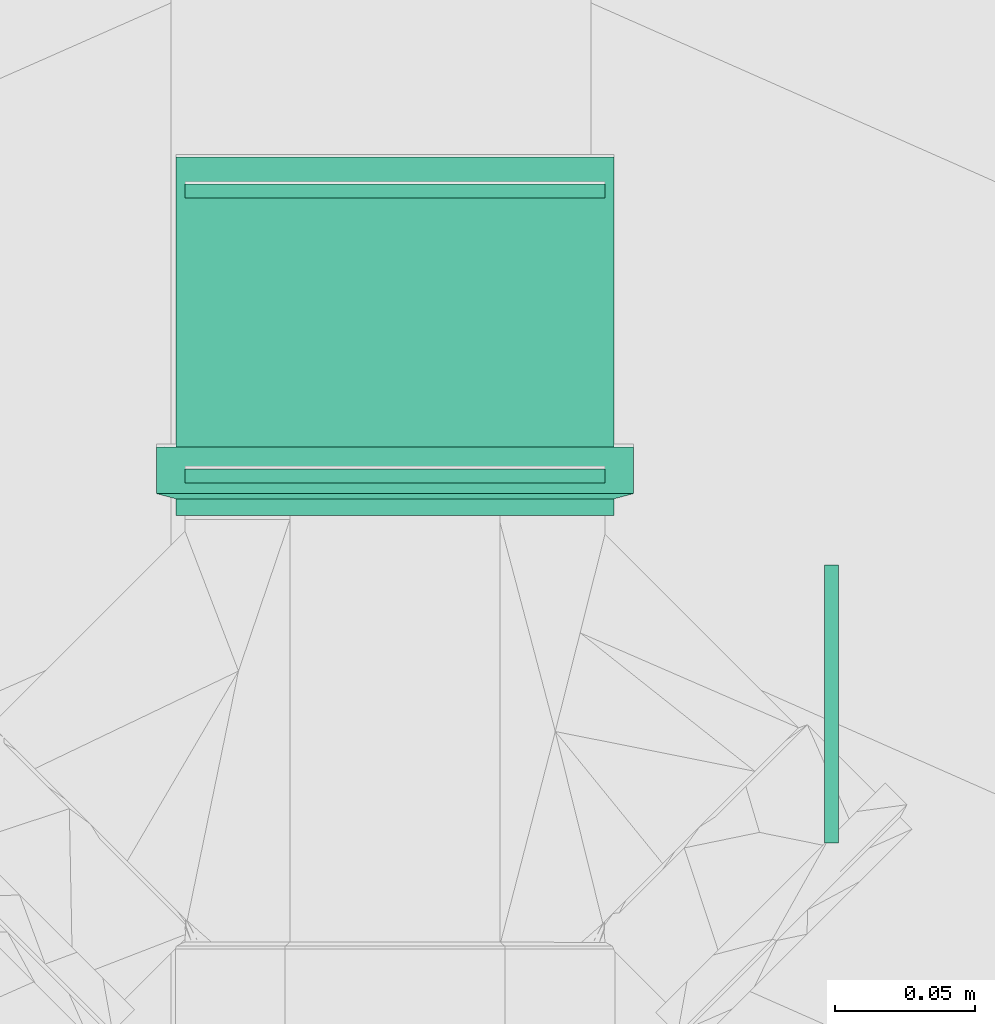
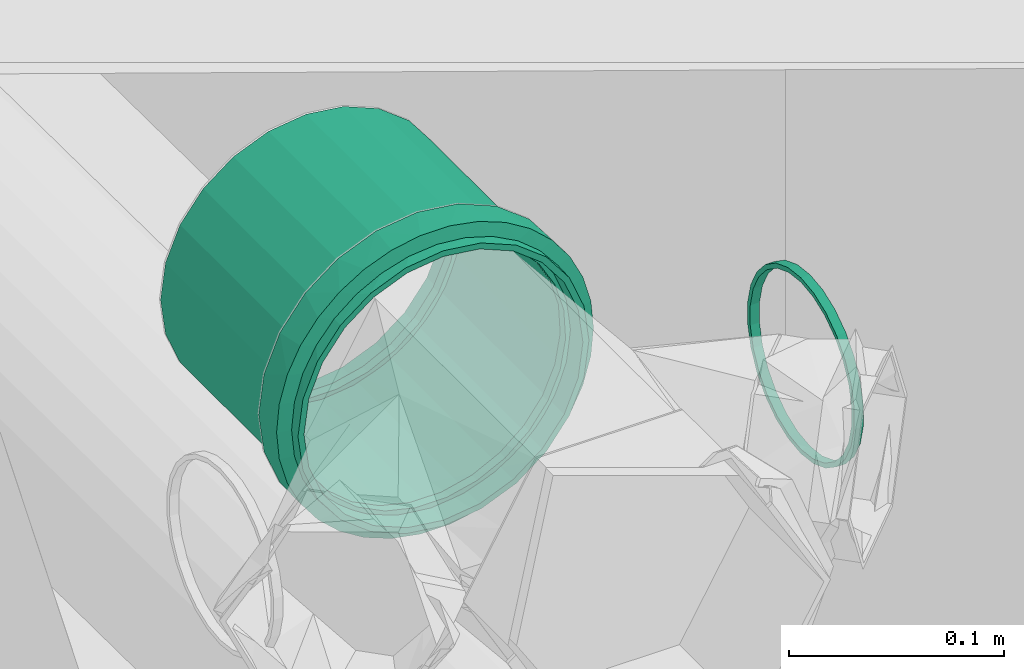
# One storey, part 102 of 166: 4 flow fittings.
"""IFC2X3 building model written with IfcOpenShell, lengths in metres."""

from ifc_helpers import new_model, entity, si_unit, converted_unit, direction, frame, frame_2d, origin, place, context, subcontext, project, spatial, hollow_circle, extrude, faceted_brep, source, transform, mapped, material, type_object, type_shapes, element, save


model = new_model("IFC2X3")

# Units and contexts
model_context = context("Model", 3, precision=1e-05, world=origin(), true_north=direction((6.123233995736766e-17, 1.0)))
body_context = subcontext(model_context, "Body", "Model", "MODEL_VIEW")
ifc_project = project(units=[si_unit("LENGTHUNIT", "METRE"), converted_unit("PLANEANGLEUNIT", "DEGREE", entity("IfcPlaneAngleMeasure", 0.017453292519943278), si_unit("PLANEANGLEUNIT", "RADIAN"), dimensions=[0, 0, 0, 0, 0, 0, 0]), si_unit("AREAUNIT", "SQUARE_METRE")], contexts=[model_context])

# Site, building, storey
site_placement = place(None, origin())
site = spatial("IfcSite", under=ifc_project, at=site_placement, Name="Default", CompositionType="ELEMENT")
building_placement = place(site_placement, origin())
building = spatial("IfcBuilding", under=site, at=building_placement, Name="CASA DE ACOLHIDA PARA IDOSOS", CompositionType="ELEMENT")
storey_placement = place(building_placement, frame((0.0, 0.0, -1.7499999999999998)))
storey = spatial("IfcBuildingStorey", under=building, at=storey_placement, Name="IMPLANTAÇÃO DRENAGEM", CompositionType="ELEMENT", Elevation=-1.7499999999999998)

# Flow fittings
ifc_material_1 = material(Name="PVC Bege Pérola")
pipe_fitting_type_1 = type_object("IfcPipeFittingType", Name="PLUV_Serie Reforcada_Luva Simples:Standard", PredefinedType="NOTDEFINED", material=ifc_material_1)
shared_shape_1 = source(origin(), body_context, "Body", "Brep", [
    faceted_brep([(0.02451000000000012, 0.04262500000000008, -0.07382866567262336), (0.02451000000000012, 0.06028085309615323, -0.06028085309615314), (0.02451000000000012, 0.039124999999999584, -0.06776648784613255), (0.02451000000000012, 0.020252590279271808, -0.0755836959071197), (0.02451000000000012, 0.022064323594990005, -0.08234517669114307), (0.02451000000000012, 0.05533110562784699, -0.055331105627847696), (0.02451000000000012, 0.07382866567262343, -0.04262499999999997), (0.02451000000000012, 0.06776648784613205, -0.03912500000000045), (0.02451000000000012, 0.07558369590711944, -0.02025259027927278), (0.02451000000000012, 0.08234517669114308, -0.022064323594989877), (0.02451000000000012, 0.07825, 0.0), (0.02451000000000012, 0.08525, 0.0), (0.02451000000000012, 0.07558369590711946, 0.020252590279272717), (0.02451000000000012, 0.0823451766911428, 0.022064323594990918), (0.02451000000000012, 0.06776648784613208, 0.039125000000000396), (0.02451000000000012, 0.07382866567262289, 0.04262500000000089), (0.02451000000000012, 0.05533110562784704, 0.055331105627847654), (0.02451000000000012, 0.06028085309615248, 0.0602808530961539), (0.02451000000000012, 0.03912499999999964, 0.06776648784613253), (0.02451000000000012, 0.04262499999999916, 0.07382866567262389), (0.02451000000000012, 0.020252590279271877, 0.07558369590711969), (0.02451000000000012, 0.02206432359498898, 0.08234517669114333), (0.02451000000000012, 0.0, 0.07825), (0.02451000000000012, 0.0, 0.08525), (0.02451000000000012, -0.020252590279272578, 0.0755836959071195), (0.02451000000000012, -0.022064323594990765, 0.08234517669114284), (0.02451000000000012, -0.03912500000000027, 0.06776648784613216), (0.02451000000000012, -0.042625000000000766, 0.07382866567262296), (0.02451000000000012, -0.05533110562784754, 0.055331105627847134), (0.02451000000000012, -0.0602808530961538, 0.06028085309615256), (0.02451000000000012, -0.06776648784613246, 0.03912499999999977), (0.02451000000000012, -0.07382866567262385, 0.042624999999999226), (0.02451000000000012, -0.08234517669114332, 0.02206432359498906), (0.02451000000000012, -0.07558369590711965, 0.020252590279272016), (0.02451000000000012, -0.08525, 0.0), (0.02451000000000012, -0.07825, 0.0), (0.02451000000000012, -0.08234517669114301, -0.022064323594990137), (0.02451000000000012, -0.07558369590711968, -0.020252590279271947), (0.02451000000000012, -0.07382866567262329, -0.04262500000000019), (0.02451000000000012, -0.0677664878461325, -0.03912499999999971), (0.02451000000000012, -0.060280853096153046, -0.060280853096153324), (0.02451000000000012, -0.05533110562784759, -0.055331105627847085), (0.02451000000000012, -0.042624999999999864, -0.0738286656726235), (0.02451000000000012, -0.039125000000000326, -0.06776648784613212), (0.02451000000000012, -0.02206432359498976, -0.08234517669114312), (0.02451000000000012, -0.02025259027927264, -0.07558369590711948), (0.02451000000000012, 0.0, -0.08525), (0.02451000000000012, 0.0, -0.07825), (0.007830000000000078, -0.08379835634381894, 0.01566518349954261), (0.007830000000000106, -0.07949286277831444, 0.03079687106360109), (0.007830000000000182, -0.05137242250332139, 0.06803261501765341), (0.007830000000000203, -0.03799626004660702, 0.07631413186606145), (0.007830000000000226, -0.00786152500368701, 0.08488674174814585), (0.00783000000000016, -0.06299903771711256, 0.057434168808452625), (0.007830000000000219, -0.023326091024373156, 0.08199668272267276), (0.007830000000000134, -0.07248014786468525, 0.044879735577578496), (0.00783000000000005, -0.08525, 0.0), (0.00783000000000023, 0.007870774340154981, 0.08488588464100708), (0.007830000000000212, 0.03800457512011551, 0.07630999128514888), (0.007830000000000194, 0.05137983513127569, 0.06802701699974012), (0.007830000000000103, 0.07949621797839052, 0.030788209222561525), (0.007830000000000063, 0.08380006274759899, 0.015656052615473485), (0.007830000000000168, 0.06300529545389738, 0.05742730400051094), (0.00783000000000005, 0.08525, 0.0), (0.007830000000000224, 0.023335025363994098, 0.08199414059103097), (0.007830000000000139, 0.07248503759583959, 0.04487183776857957), (0.007830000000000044, 0.08380006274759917, -0.015656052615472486), (0.007830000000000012, 0.07949621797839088, -0.03078820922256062), (0.00782999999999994, 0.05137983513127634, -0.06802701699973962), (0.007829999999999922, 0.038004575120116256, -0.07630999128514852), (0.007829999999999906, 0.007870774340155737, -0.084885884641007), (0.00782999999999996, 0.063005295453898, -0.05742730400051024), (0.007829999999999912, 0.023335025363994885, -0.08199414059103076), (0.007829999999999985, 0.07248503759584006, -0.04487183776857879), (0.007829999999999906, -0.007861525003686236, -0.0848867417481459), (0.007829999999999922, -0.037996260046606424, -0.07631413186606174), (0.007829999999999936, -0.05137242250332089, -0.06803261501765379), (0.00783, -0.07949286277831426, -0.030796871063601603), (0.007830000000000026, -0.08379835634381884, -0.015665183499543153), (0.007829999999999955, -0.06299903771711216, -0.057434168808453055), (0.007829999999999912, -0.023326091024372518, -0.08199668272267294), (0.007829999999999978, -0.07248014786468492, -0.044879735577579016), (0.1280100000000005, 0.03912500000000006, -0.06776648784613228), (0.1280100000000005, 0.055331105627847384, -0.05533110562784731), (0.1280100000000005, 0.0374999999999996, -0.06495190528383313), (0.1280100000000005, 0.01941142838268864, -0.07244443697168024), (0.1280100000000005, 0.020252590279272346, -0.07558369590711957), (0.1280100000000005, 0.05303300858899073, -0.053033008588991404), (0.1280100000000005, 0.06776648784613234, -0.039124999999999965), (0.1280100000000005, 0.06495190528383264, -0.03750000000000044), (0.1280100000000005, 0.07244443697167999, -0.01941142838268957), (0.1280100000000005, 0.07558369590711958, -0.020252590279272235), (0.1280100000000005, 0.07500000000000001, 0.0), (0.1280100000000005, 0.07825, 0.0), (0.1280100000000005, 0.07244443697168, 0.019411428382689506), (0.1280100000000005, 0.07558369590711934, 0.020252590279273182), (0.1280100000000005, 0.06495190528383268, 0.03750000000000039), (0.1280100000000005, 0.06776648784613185, 0.03912500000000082), (0.1280100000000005, 0.05303300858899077, 0.05303300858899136), (0.1280100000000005, 0.0553311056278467, 0.055331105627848), (0.1280100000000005, 0.03749999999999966, 0.0649519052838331), (0.1280100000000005, 0.039124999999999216, 0.06776648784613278), (0.1280100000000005, 0.0194114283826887, 0.07244443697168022), (0.1280100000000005, 0.020252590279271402, 0.07558369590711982), (0.1280100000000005, 0.0, 0.07500000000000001), (0.1280100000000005, 0.0, 0.07825), (0.1280100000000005, -0.019411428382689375, 0.07244443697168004), (0.1280100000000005, -0.020252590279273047, 0.07558369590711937), (0.1280100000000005, -0.03750000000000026, 0.06495190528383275), (0.1280100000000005, -0.039125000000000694, 0.06776648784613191), (0.1280100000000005, -0.05303300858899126, 0.05303300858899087), (0.1280100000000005, -0.055331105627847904, 0.05533110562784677), (0.1280100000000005, -0.06495190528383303, 0.037499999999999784), (0.1280100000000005, -0.06776648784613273, 0.039124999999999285), (0.1280100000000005, -0.0755836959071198, 0.02025259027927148), (0.1280100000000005, -0.07244443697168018, 0.019411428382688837), (0.1280100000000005, -0.07825, 0.0), (0.1280100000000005, -0.07500000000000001, 0.0), (0.1280100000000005, -0.07558369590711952, -0.020252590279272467), (0.1280100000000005, -0.0724444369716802, -0.01941142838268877), (0.1280100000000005, -0.06776648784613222, -0.039125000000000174), (0.1280100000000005, -0.06495190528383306, -0.03749999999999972), (0.1280100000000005, -0.05533110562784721, -0.05533110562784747), (0.1280100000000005, -0.053033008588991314, -0.05303300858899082), (0.1280100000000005, -0.03912499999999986, -0.0677664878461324), (0.1280100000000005, -0.03750000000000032, -0.06495190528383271), (0.1280100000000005, -0.02025259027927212, -0.07558369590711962), (0.1280100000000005, -0.019411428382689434, -0.07244443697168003), (0.1280100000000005, 0.0, -0.07825), (0.1280100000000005, 0.0, -0.07500000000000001), (0.0, 0.0374999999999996, -0.06495190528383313), (0.0, 0.055331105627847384, -0.05533110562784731), (0.0, 0.03912500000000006, -0.06776648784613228), (0.0, 0.01941142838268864, -0.07244443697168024), (0.0, 0.05303300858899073, -0.053033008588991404), (0.0, 0.06776648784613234, -0.039124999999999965), (0.0, 0.06495190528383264, -0.03750000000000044), (0.0, 0.07244443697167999, -0.01941142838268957), (0.0, 0.07558369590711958, -0.020252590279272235), (0.0, 0.07500000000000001, 0.0), (0.0, 0.07825, 0.0), (0.0, 0.07244443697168, 0.019411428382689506), (0.0, 0.07558369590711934, 0.020252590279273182), (0.0, 0.06495190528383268, 0.03750000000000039), (0.0, 0.06776648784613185, 0.03912500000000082), (0.0, 0.05303300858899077, 0.05303300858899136), (0.0, 0.0553311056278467, 0.055331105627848), (0.0, 0.03749999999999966, 0.0649519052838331), (0.0, 0.039124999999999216, 0.06776648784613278), (0.0, 0.0194114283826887, 0.07244443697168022), (0.0, 0.020252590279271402, 0.07558369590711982), (0.0, 0.0, 0.07500000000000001), (0.0, 0.0, 0.07825), (0.0, -0.019411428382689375, 0.07244443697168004), (0.0, -0.020252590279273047, 0.07558369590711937), (0.0, -0.03750000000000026, 0.06495190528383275), (0.0, -0.039125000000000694, 0.06776648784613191), (0.0, -0.05303300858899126, 0.05303300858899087), (0.0, -0.055331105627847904, 0.05533110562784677), (0.0, -0.06495190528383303, 0.037499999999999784), (0.0, -0.06776648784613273, 0.039124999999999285), (0.0, -0.0755836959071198, 0.02025259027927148), (0.0, -0.07244443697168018, 0.019411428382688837), (0.0, -0.07825, 0.0), (0.0, -0.07500000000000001, 0.0), (0.0, -0.07558369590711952, -0.020252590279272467), (0.0, -0.0724444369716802, -0.01941142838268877), (0.0, -0.06776648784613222, -0.039125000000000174), (0.0, -0.06495190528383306, -0.03749999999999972), (0.0, -0.05533110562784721, -0.05533110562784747), (0.0, -0.053033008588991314, -0.05303300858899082), (0.0, -0.03912499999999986, -0.0677664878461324), (0.0, -0.03750000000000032, -0.06495190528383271), (0.0, -0.02025259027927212, -0.07558369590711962), (0.0, -0.019411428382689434, -0.07244443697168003), (0.0, 0.0, -0.07825), (0.0, 0.0, -0.07500000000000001), (0.0, 0.020252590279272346, -0.07558369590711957), (0.005950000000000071, -0.07674636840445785, 0.015266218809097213), (0.0059500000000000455, -0.07825, 0.0), (0.005950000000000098, -0.0722932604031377, 0.02994573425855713), (0.005950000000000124, -0.06506181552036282, 0.043474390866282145), (0.005950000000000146, -0.05532994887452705, 0.05533226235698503), (0.005950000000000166, -0.04347167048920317, 0.06506363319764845), (0.005950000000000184, -0.029942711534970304, 0.07229451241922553), (0.005950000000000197, -0.015263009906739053, 0.07674700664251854), (0.005950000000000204, 3.271758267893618e-06, 0.07824999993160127), (0.005950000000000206, 0.015269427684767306, 0.07674573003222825), (0.005950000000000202, 0.029948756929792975, 0.07229200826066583), (0.00595000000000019, 0.04347711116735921, 0.0650599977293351), (0.005950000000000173, 0.055334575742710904, 0.05532763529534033), (0.0059500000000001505, 0.06506545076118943, 0.043468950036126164), (0.005950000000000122, 0.07229576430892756, 0.02993968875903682), (0.005950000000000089, 0.07674764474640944, 0.015259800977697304), (0.0059500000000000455, 0.07825, 0.0), (0.0059499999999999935, 0.07674764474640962, -0.015259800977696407), (0.005949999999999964, 0.0722957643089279, -0.02993968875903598), (0.005949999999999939, 0.06506545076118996, -0.04346895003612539), (0.005949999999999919, 0.05533457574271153, -0.05532763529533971), (0.005949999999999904, 0.04347711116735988, -0.06505999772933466), (0.005949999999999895, 0.029948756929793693, -0.07229200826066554), (0.00594999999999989, 0.015269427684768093, -0.0767457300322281), (0.005949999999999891, 3.2717582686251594e-06, -0.07824999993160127), (0.00594999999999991, -0.029942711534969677, -0.0722945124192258), (0.005949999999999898, -0.015263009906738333, -0.07674700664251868), (0.005949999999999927, -0.04347167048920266, -0.0650636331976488), (0.005949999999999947, -0.055329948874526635, -0.055332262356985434), (0.00594999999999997, -0.06506181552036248, -0.043474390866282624), (0.005949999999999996, -0.0722932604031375, -0.02994573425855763), (0.00595000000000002, -0.07674636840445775, -0.015266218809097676), (0.06700000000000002, -0.07500000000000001, 0.0), (0.067, 0.07500000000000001, 0.0)], [[[0, 1, 2]], [[0, 2, 3]], [[3, 4, 0]], [[2, 1, 5]], [[6, 5, 1]], [[5, 6, 7]], [[7, 6, 8]], [[9, 8, 6]], [[9, 10, 8]], [[10, 9, 11]], [[12, 10, 11]], [[11, 13, 12]], [[12, 13, 14]], [[15, 14, 13]], [[14, 15, 16]], [[16, 15, 17]], [[18, 16, 17]], [[17, 19, 18]], [[18, 19, 20]], [[21, 20, 19]], [[20, 21, 22]], [[22, 21, 23]], [[22, 23, 24]], [[24, 23, 25]], [[24, 25, 26]], [[27, 26, 25]], [[27, 28, 26]], [[28, 27, 29]], [[29, 30, 28]], [[31, 30, 29]], [[30, 31, 32]], [[32, 33, 30]], [[34, 33, 32]], [[34, 35, 33]], [[36, 35, 34]], [[36, 37, 35]], [[37, 36, 38]], [[38, 39, 37]], [[39, 38, 40]], [[39, 40, 41]], [[40, 42, 41]], [[41, 42, 43]], [[43, 42, 44]], [[44, 45, 43]], [[46, 45, 44]], [[4, 47, 46]], [[46, 47, 45]], [[4, 3, 47]], [[32, 48, 34]], [[31, 49, 32]], [[50, 29, 27]], [[27, 25, 51]], [[52, 25, 23]], [[31, 29, 53]], [[52, 54, 25]], [[55, 49, 31]], [[49, 48, 32]], [[48, 56, 34]], [[51, 50, 27]], [[53, 29, 50]], [[53, 55, 31]], [[51, 25, 54]], [[21, 57, 23]], [[58, 21, 19]], [[19, 17, 59]], [[60, 15, 13]], [[13, 11, 61]], [[17, 15, 62]], [[11, 63, 61]], [[59, 58, 19]], [[58, 64, 21]], [[64, 57, 21]], [[60, 65, 15]], [[62, 15, 65]], [[62, 59, 17]], [[60, 13, 61]], [[23, 57, 52]], [[9, 66, 11]], [[6, 67, 9]], [[68, 1, 0]], [[0, 4, 69]], [[70, 4, 46]], [[6, 1, 71]], [[70, 72, 4]], [[73, 67, 6]], [[67, 66, 9]], [[66, 63, 11]], [[69, 68, 0]], [[71, 1, 68]], [[71, 73, 6]], [[69, 4, 72]], [[44, 74, 46]], [[75, 44, 42]], [[42, 40, 76]], [[38, 36, 77]], [[78, 36, 34]], [[34, 56, 78]], [[40, 38, 79]], [[78, 77, 36]], [[76, 75, 42]], [[75, 80, 44]], [[80, 74, 44]], [[79, 38, 81]], [[79, 76, 40]], [[77, 81, 38]], [[46, 74, 70]], [[82, 83, 84]], [[82, 84, 85]], [[85, 86, 82]], [[84, 83, 87]], [[88, 87, 83]], [[87, 88, 89]], [[89, 88, 90]], [[91, 90, 88]], [[91, 92, 90]], [[92, 91, 93]], [[94, 92, 93]], [[93, 95, 94]], [[94, 95, 96]], [[97, 96, 95]], [[96, 97, 98]], [[98, 97, 99]], [[100, 98, 99]], [[99, 101, 100]], [[100, 101, 102]], [[103, 102, 101]], [[102, 103, 104]], [[104, 103, 105]], [[104, 105, 106]], [[106, 105, 107]], [[106, 107, 108]], [[109, 108, 107]], [[110, 108, 109]], [[110, 109, 111]], [[111, 112, 110]], [[113, 112, 111]], [[112, 113, 114]], [[114, 115, 112]], [[116, 115, 114]], [[116, 117, 115]], [[118, 117, 116]], [[118, 119, 117]], [[119, 118, 120]], [[120, 121, 119]], [[121, 120, 122]], [[121, 122, 123]], [[122, 124, 123]], [[125, 123, 124]], [[125, 124, 126]], [[126, 127, 125]], [[128, 127, 126]], [[86, 129, 128]], [[128, 129, 127]], [[86, 85, 129]], [[130, 131, 132]], [[133, 130, 132]], [[134, 131, 130]], [[131, 134, 135]], [[136, 135, 134]], [[137, 135, 136]], [[135, 137, 138]], [[137, 139, 138]], [[140, 138, 139]], [[140, 139, 141]], [[141, 142, 140]], [[143, 142, 141]], [[142, 143, 144]], [[145, 144, 143]], [[146, 144, 145]], [[146, 145, 147]], [[147, 148, 146]], [[149, 148, 147]], [[148, 149, 150]], [[151, 150, 149]], [[152, 150, 151]], [[153, 152, 151]], [[154, 152, 153]], [[155, 154, 153]], [[154, 155, 156]], [[156, 155, 157]], [[158, 156, 157]], [[157, 159, 158]], [[158, 159, 160]], [[161, 160, 159]], [[159, 162, 161]], [[161, 162, 163]], [[162, 164, 163]], [[163, 164, 165]], [[164, 166, 165]], [[167, 165, 166]], [[166, 168, 167]], [[169, 167, 168]], [[170, 169, 168]], [[170, 171, 169]], [[171, 170, 172]], [[173, 171, 172]], [[172, 174, 173]], [[173, 174, 175]], [[174, 176, 175]], [[176, 133, 177]], [[175, 176, 177]], [[132, 177, 133]], [[178, 163, 179]], [[180, 161, 178]], [[158, 181, 182]], [[182, 183, 158]], [[180, 181, 160]], [[184, 156, 183]], [[158, 160, 181]], [[160, 161, 180]], [[161, 163, 178]], [[185, 152, 154]], [[152, 185, 186]], [[156, 184, 154]], [[156, 158, 183]], [[185, 154, 184]], [[150, 152, 187]], [[188, 150, 187]], [[146, 189, 190]], [[190, 191, 146]], [[188, 189, 148]], [[192, 144, 191]], [[144, 146, 191]], [[146, 148, 189]], [[148, 150, 188]], [[193, 194, 140]], [[140, 142, 193]], [[142, 144, 192]], [[192, 193, 142]], [[187, 152, 186]], [[195, 140, 194]], [[196, 138, 195]], [[131, 197, 198]], [[198, 199, 131]], [[196, 197, 135]], [[200, 132, 199]], [[131, 135, 197]], [[135, 138, 196]], [[138, 140, 195]], [[177, 201, 175]], [[132, 200, 177]], [[201, 202, 175]], [[132, 131, 199]], [[201, 177, 200]], [[203, 173, 204]], [[205, 171, 203]], [[169, 206, 207]], [[167, 207, 208]], [[205, 206, 169]], [[165, 208, 209]], [[169, 171, 205]], [[171, 173, 203]], [[173, 175, 204]], [[163, 165, 209]], [[167, 208, 165]], [[167, 169, 207]], [[163, 209, 179]], [[204, 175, 202]], [[81, 208, 207]], [[179, 209, 78]], [[209, 208, 77]], [[205, 203, 75]], [[76, 206, 205]], [[206, 79, 207]], [[204, 80, 203]], [[78, 209, 77]], [[56, 179, 78]], [[77, 208, 81]], [[74, 80, 204]], [[76, 79, 206]], [[75, 76, 205]], [[80, 75, 203]], [[81, 207, 79]], [[204, 202, 74]], [[72, 201, 200]], [[201, 70, 202]], [[199, 69, 200]], [[196, 195, 67]], [[73, 197, 196]], [[198, 197, 71]], [[198, 68, 199]], [[66, 195, 194]], [[68, 69, 199]], [[72, 70, 201]], [[69, 72, 200]], [[63, 66, 194]], [[73, 71, 197]], [[67, 73, 196]], [[66, 67, 195]], [[68, 198, 71]], [[202, 70, 74]], [[65, 192, 191]], [[194, 193, 61]], [[193, 192, 60]], [[189, 188, 58]], [[59, 190, 189]], [[190, 62, 191]], [[187, 64, 188]], [[61, 193, 60]], [[63, 194, 61]], [[60, 192, 65]], [[57, 64, 187]], [[59, 62, 190]], [[58, 59, 189]], [[64, 58, 188]], [[65, 191, 62]], [[187, 186, 57]], [[54, 185, 184]], [[185, 52, 186]], [[183, 51, 184]], [[180, 178, 49]], [[55, 181, 180]], [[182, 181, 53]], [[182, 50, 183]], [[48, 178, 179]], [[50, 51, 183]], [[54, 52, 185]], [[51, 54, 184]], [[56, 48, 179]], [[55, 53, 181]], [[49, 55, 180]], [[48, 49, 178]], [[50, 182, 53]], [[186, 52, 57]], [[33, 35, 116, 114]], [[113, 30, 33, 114]], [[26, 28, 111, 109]], [[113, 111, 28, 30]], [[24, 26, 109, 107]], [[107, 105, 22, 24]], [[18, 20, 103, 101]], [[99, 16, 18, 101]], [[12, 14, 97, 95]], [[99, 97, 14, 16]], [[10, 12, 95, 93]], [[103, 20, 22, 105]], [[10, 93, 91, 8]], [[88, 7, 8, 91]], [[82, 86, 3, 2]], [[83, 82, 2, 5]], [[7, 88, 83, 5]], [[86, 128, 47, 3]], [[43, 45, 126, 124]], [[122, 41, 43, 124]], [[37, 39, 120, 118]], [[122, 120, 39, 41]], [[35, 37, 118, 116]], [[126, 45, 47, 128]], [[115, 117, 210, 164, 162]], [[155, 108, 110, 157]], [[110, 112, 159, 157]], [[112, 115, 162, 159]], [[106, 108, 155, 153]], [[153, 151, 104, 106]], [[102, 104, 151, 149]], [[102, 149, 147, 100]], [[141, 94, 96, 143]], [[96, 98, 145, 143]], [[98, 100, 147, 145]], [[92, 94, 141, 139, 211]], [[211, 139, 137, 90, 92]], [[130, 84, 87, 134]], [[89, 90, 137, 136]], [[89, 136, 134, 87]], [[85, 84, 130, 133]], [[133, 176, 129, 85]], [[127, 129, 176, 174]], [[127, 174, 172, 125]], [[166, 119, 121, 168]], [[121, 123, 170, 168]], [[123, 125, 172, 170]], [[117, 119, 166, 164, 210]]]),
])
type_shapes(pipe_fitting_type_1, [shared_shape_1])
flow_fitting_1_placement = place(storey_placement, frame((-21.976366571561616, 33.912014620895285, -1.0), z_axis=(0.0, 0.0, -1.0), x_axis=(0.0, 1.0, 0.0)))
element("IfcFlowFitting", 1, at=flow_fitting_1_placement, inside=storey, type_object=pipe_fitting_type_1, material=ifc_material_1, Name="PLUV_Serie Reforcada_Luva Simples:Standard", ObjectType="PLUV_Serie Reforcada_Luva Simples:Standard", context=body_context, shape_type="MappedRepresentation", body=[
    mapped(shared_shape_1, transform((0.0, 0.0, 0.0), scale=1.0)),
])
ifc_material_2 = material(Name="Borracha")
pipe_fitting_type_2 = type_object("IfcPipeFittingType", Name="AN_PLUV_Anel de vedação para Conexão Série R:AN_PLUV_Anel de vedação para Conexão Série R", PredefinedType="NOTDEFINED", material=ifc_material_2)
shared_shape_2 = source(origin(), body_context, "Body", "SweptSolid", [
    extrude(hollow_circle(Radius=0.05, WallThickness=0.0024999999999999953, at=frame_2d((2.979563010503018e-18, -8.077722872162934e-17), x_axis=(1.0, 0.0))), frame((0.0, 0.0, -0.004999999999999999)), (0.0, 0.0, 1.0), 0.004999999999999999),
])
type_shapes(pipe_fitting_type_2, [shared_shape_2])
flow_fitting_2_placement = place(storey_placement, frame((-21.823020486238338, 33.84469853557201, -1.0), z_axis=(-1.0, 0.0, 0.0), x_axis=(0.0, 0.0, 1.0)))
element("IfcFlowFitting", 2, at=flow_fitting_2_placement, inside=storey, type_object=pipe_fitting_type_2, material=ifc_material_2, Name="AN_PLUV_Anel de vedação para Conexão Série R:AN_PLUV_Anel de vedação para Conexão Série R", ObjectType="AN_PLUV_Anel de vedação para Conexão Série R:AN_PLUV_Anel de vedação para Conexão Série R", context=body_context, shape_type="MappedRepresentation", body=[
    mapped(shared_shape_2, transform((0.0, 0.0, 0.0), scale=1.0)),
])
pipe_fitting_type_3 = type_object("IfcPipeFittingType", Name="AN_PLUV_Anel de vedação para Conexão Série R:AN_PLUV_Anel de vedação para Conexão Série R", PredefinedType="NOTDEFINED", material=ifc_material_2)
shared_shape_3 = source(origin(), body_context, "Body", "SweptSolid", [
    extrude(hollow_circle(Radius=0.07500000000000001, WallThickness=0.0025000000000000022, at=frame_2d((2.979563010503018e-18, -1.21165843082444e-16), x_axis=(1.0, 0.0))), frame((0.0, 0.0, -0.004999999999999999)), (0.0, 0.0, 1.0), 0.004999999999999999),
])
type_shapes(pipe_fitting_type_3, [shared_shape_3])
for number, where, z_axis, x_axis in (
    (3, (-21.976366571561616, 34.02536462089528, -1.0), (0.0, -1.0, 0.0), (0.0, 0.0, 1.0)),
    (4, (-21.976366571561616, 33.92861462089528, -1.0), (0.0, 1.0, 0.0), (0.0, 0.0, 1.0)),
):
    element("IfcFlowFitting", number, at=place(storey_placement, frame(where, z_axis=z_axis, x_axis=x_axis)), inside=storey, type_object=pipe_fitting_type_3, material=ifc_material_2, Name="AN_PLUV_Anel de vedação para Conexão Série R:AN_PLUV_Anel de vedação para Conexão Série R", ObjectType="AN_PLUV_Anel de vedação para Conexão Série R:AN_PLUV_Anel de vedação para Conexão Série R", context=body_context, shape_type="MappedRepresentation", body=[
        mapped(shared_shape_3, transform((0.0, 0.0, 0.0), scale=1.0)),
    ])

save(model, "model.ifc")
